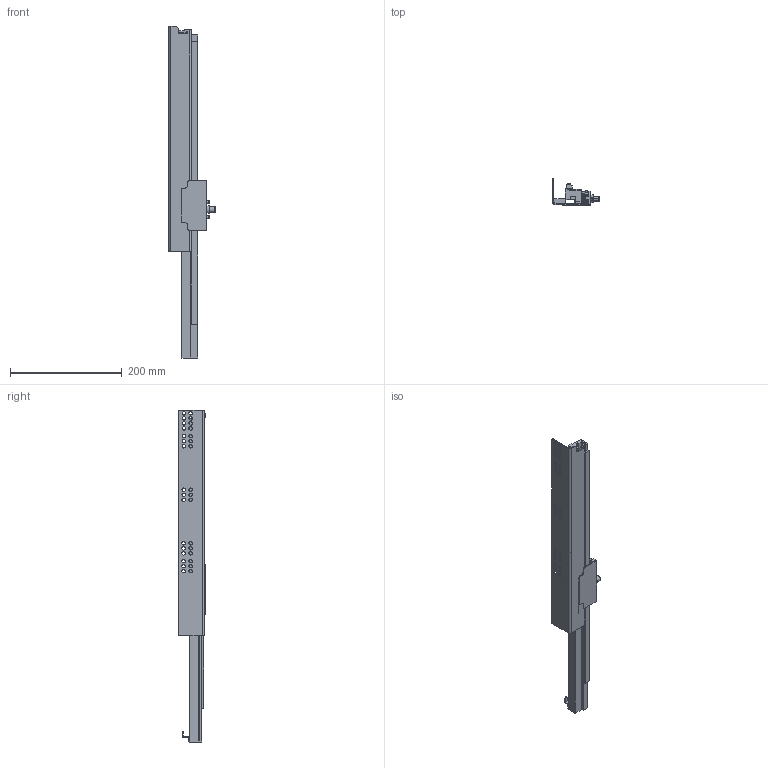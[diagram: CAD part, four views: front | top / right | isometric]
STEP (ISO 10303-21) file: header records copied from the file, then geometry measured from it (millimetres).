
FILE_DESCRIPTION (( 'STEP AP203' ), '1' );
FILE_NAME ('TF10600H-L-DTC3D-close.STEP', '2021-06-03T01:54:14', ( 'df' ), ( 'Microsoft' ), 'SwSTEP 2.0', 'SolidWorks 2018', '' );
FILE_SCHEMA (( 'CONFIG_CONTROL_DESIGN' ));
Length unit declared in the file: millimetre
Products named in the file (1): TF10600H-L-DTC3D-close
Bounding box: 83.3 x 48 x 595.27 mm (x, y, z)
Volume: 475120.1 mm3; surface area: 141565.3 mm2
Topology: 1 solids, 4 shells, 517 faces, 1338 edges, 825 vertices
Faces by surface type: cylinder 247, plane 162, bspline 102, sphere 4, torus 2
Entity records: 17683 total; most frequent: CARTESIAN_POINT 5243, ORIENTED_EDGE 2654, DIRECTION 2561, EDGE_CURVE 1327, AXIS2_PLACEMENT_3D 953, VERTEX_POINT 825, LINE 655, VECTOR 655
